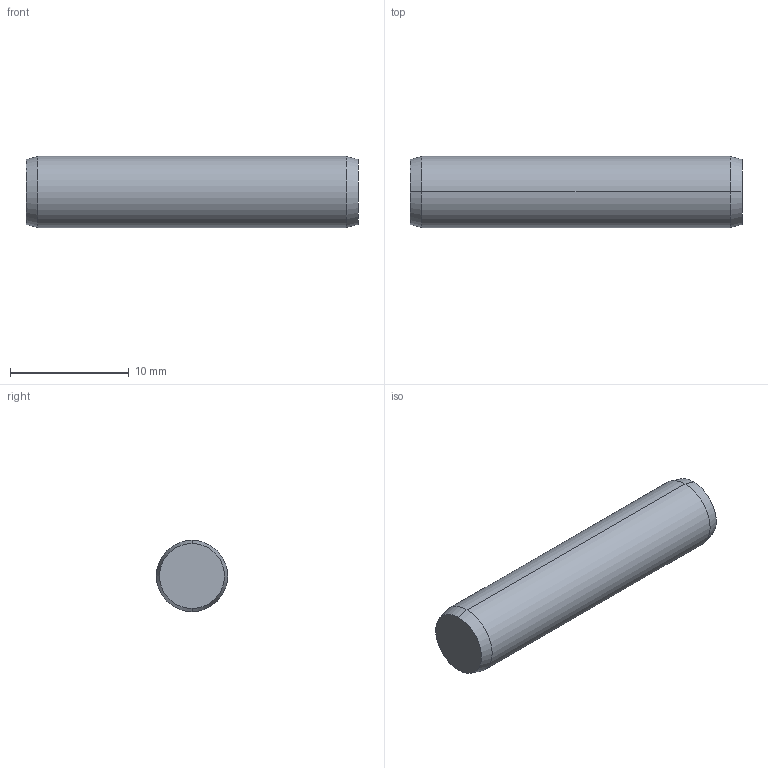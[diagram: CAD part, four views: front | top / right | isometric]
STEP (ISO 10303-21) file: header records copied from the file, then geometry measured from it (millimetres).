
FILE_DESCRIPTION (( 'STEP AP203' ), '1' );
FILE_NAME ('P1206.060-028.step', '2017-06-14T08:21:14', ( 'User' ), ( '' ), 'SwSTEP 2.0', 'SolidWorks 2009', '' );
FILE_SCHEMA (( 'CONFIG_CONTROL_DESIGN' ));
Length unit declared in the file: millimetre
Products named in the file (1): P1206.060-028
Bounding box: 28 x 6 x 6 mm (x, y, z)
Volume: 786.8 mm3; surface area: 574.3 mm2
Topology: 1 solids, 1 shells, 8 faces, 14 edges, 8 vertices
Faces by surface type: cone 4, cylinder 2, plane 2
Entity records: 271 total; most frequent: DIRECTION 40, CARTESIAN_POINT 31, ORIENTED_EDGE 28, AXIS2_PLACEMENT_3D 17, EDGE_CURVE 14, CIRCLE 8, FACE_OUTER_BOUND 8, PERSON_AND_ORGANIZATION 8
